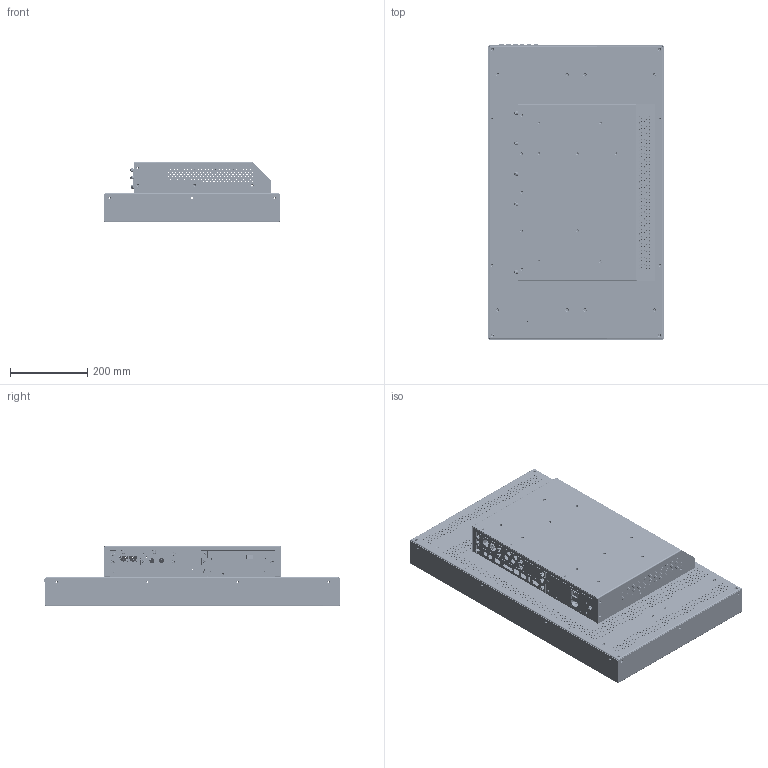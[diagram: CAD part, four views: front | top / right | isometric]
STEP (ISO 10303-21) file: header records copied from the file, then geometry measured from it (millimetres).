
FILE_DESCRIPTION(/* description */ ('PDP 32W'),/* implementation_level */ '2;1');
FILE_NAME(/* name */ 'G:\Mechanik\TFT\HD2Line\PDP 32W\Zur Weitergabe an Extern\PDP 32W.stp',/* time_stamp */ '2015-03-18T10:27:00+01:00',/* author */ ('bh'),/* organization */ ('sonoVTS GmbH'),/* preprocessor_version */ 'ST-DEVELOPER v15.6',/* originating_system */ 'Autodesk Inventor 2015',/* authorisation */ '');
FILE_SCHEMA (('AUTOMOTIVE_DESIGN { 1 0 10303 214 3 1 1 }'));
Products named in the file (32): 320-010_01A_FRONTRAHMEN_26; 32Z-010_00A_BG-FRONTRAHMEN_ASM__ASM; 320-020_01A_MONTAGEPLATTE_31; BEDIENSTREIFEN_F_S__R_285-22262; BEDIENSTREIFEN_F_S__R_285-22223_ASM; KVT_RMHB_M5_161_2_03_2; 600-040_01B_39; KVT_M6_RC_ROKSG_3_5__13__2_03_6; KVT_M6_30_TSN_ST__13__2_03_4; 600-040_00B_ASM_22_ASM; GERAETESTECKER_SCHURTER_KMF1116; 600-052_01B_AF0_24; MANIFOLD_SOLID_BREP_297047; MANIFOLD_SOLID_BREP_297623; MANIFOLD_SOLID_BREP_312670; 4C-PH-M3-2F1_4_ASM; NT2-002_00A_NT-EINSCHUB_32-47Z__ASM; 600-031_01B_21; 600-031-02C_2; 600-031_00C_ASM_10_ASM; 600-030_01B_17; 600-030_00B_ASM_4_ASM; 600-032_01B_14; 600-032_00B_ASM_5_ASM; 600-033_01B_18; 600-033_00B_ASM_4_ASM; RUECKTEIL_32-47Z_ASM_64_ASM; 600-010_01C_95; 600-010_00B_BEFEST-RUECKHAUBE_A_ASM; 320-020_00A_BG-MONTAGEPLATTE_AS_ASM; 32Z-000_00A-32ZOLL_NEU_ASM_17_ASM; PDP 32W
Assembly tree (59 placements, depth 6):
  PDP 32W
    32Z-000_00A-32ZOLL_NEU_ASM_17_ASM
      32Z-010_00A_BG-FRONTRAHMEN_ASM__ASM
        320-010_01A_FRONTRAHMEN_26
      320-020_00A_BG-MONTAGEPLATTE_AS_ASM
        320-020_01A_MONTAGEPLATTE_31
        BEDIENSTREIFEN_F_S__R_285-22223_ASM
          BEDIENSTREIFEN_F_S__R_285-22262
        600-010_00B_BEFEST-RUECKHAUBE_A_ASM
          600-010_01C_95
        KVT_RMHB_M5_161_2_03_2  x11
      RUECKTEIL_32-47Z_ASM_64_ASM
        600-040_00B_ASM_22_ASM
          600-040_01B_39
          KVT_M6_RC_ROKSG_3_5__13__2_03_6  x5
          KVT_M6_30_TSN_ST__13__2_03_4  x5
        NT2-002_00A_NT-EINSCHUB_32-47Z__ASM
          GERAETESTECKER_SCHURTER_KMF1116
          600-052_01B_AF0_24
          4C-PH-M3-2F1_4_ASM  x2
            MANIFOLD_SOLID_BREP_297047
            MANIFOLD_SOLID_BREP_297623
            MANIFOLD_SOLID_BREP_312670
        600-031_00C_ASM_10_ASM
          600-031_01B_21
          4C-PH-M3-2F1_4_ASM  x3
            MANIFOLD_SOLID_BREP_297047
            MANIFOLD_SOLID_BREP_297623
            MANIFOLD_SOLID_BREP_312670
          600-031-02C_2
        600-030_00B_ASM_4_ASM
          600-030_01B_17
          4C-PH-M3-2F1_4_ASM  x2
            MANIFOLD_SOLID_BREP_297047
            MANIFOLD_SOLID_BREP_297623
            MANIFOLD_SOLID_BREP_312670
        600-032_00B_ASM_5_ASM
          600-032_01B_14
          4C-PH-M3-2F1_4_ASM  x2
            MANIFOLD_SOLID_BREP_297047
            MANIFOLD_SOLID_BREP_297623
            MANIFOLD_SOLID_BREP_312670
        600-033_00B_ASM_4_ASM
          600-033_01B_18
          4C-PH-M3-2F1_4_ASM  x2
            MANIFOLD_SOLID_BREP_297047
            MANIFOLD_SOLID_BREP_297623
            MANIFOLD_SOLID_BREP_312670
Bounding box: 456.5 x 766.95 x 157.1 mm (x, y, z)
Volume: 1890802 mm3; surface area: 2652578 mm2
Topology: 66 solids, 74 shells, 8947 faces, 23189 edges, 14345 vertices
Faces by surface type: cylinder 4025, plane 2812, cone 1103, torus 676, sphere 273, bspline 58
Full cylindrical faces by diameter (mm): 1.905 x11, 2.3 x4, 2.5 x4, 2.75 x4, 2.979 x11, 3 x2006, 3.05 x2, 3.084 x11, 3.099 x11, 3.2 x16, 3.5 x6, 3.658 x11, 3.759 x11, 4 x1, 4.1 x12, 4.134 x11, 4.3 x3, 4.5 x15, 4.57 x4, 4.648 x11, 4.674 x5, 4.8 x11, 4.917 x10, 5.4 x32, 5.5 x7, 6.223 x11, 6.4 x23, 7.5 x10, 8.5 x11, 8.9 x10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
Entity records: 119834 total; most frequent: CARTESIAN_POINT 23095, DIRECTION 19941, ORIENTED_EDGE 15410, EDGE_LOOP 10385, AXIS2_PLACEMENT_3D 8942, EDGE_CURVE 7691, FACE_BOUND 6756, VERTEX_POINT 6434
